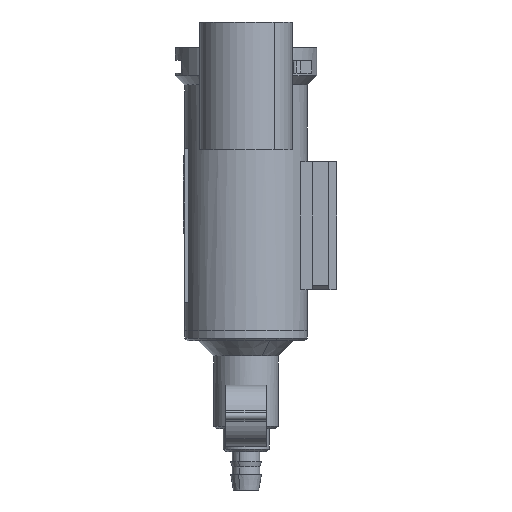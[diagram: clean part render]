
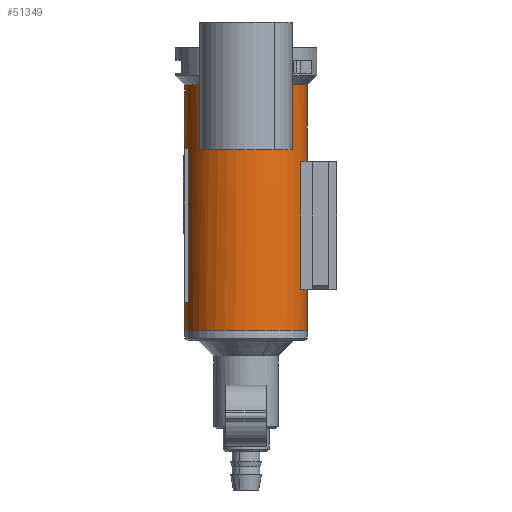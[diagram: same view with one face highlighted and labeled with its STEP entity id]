
A CAD part, front view. The second image highlights one B-rep face of the part: STEP entity #51349.
In plain terms, the highlighted cylindrical face has radius 12 mm (diameter 24 mm), a partial arc.
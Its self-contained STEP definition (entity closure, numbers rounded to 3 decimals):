
#49598=AXIS2_PLACEMENT_3D('Circle Axis2P3D',#49596,#49597,$) ;
#49666=AXIS2_PLACEMENT_3D('Circle Axis2P3D',#49664,#49665,$) ;
#49725=AXIS2_PLACEMENT_3D('Circle Axis2P3D',#49723,#49724,$) ;
#49827=AXIS2_PLACEMENT_3D('Circle Axis2P3D',#49825,#49826,$) ;
#49867=AXIS2_PLACEMENT_3D('Circle Axis2P3D',#49865,#49866,$) ;
#49898=AXIS2_PLACEMENT_3D('Circle Axis2P3D',#49896,#49897,$) ;
#49973=AXIS2_PLACEMENT_3D('Circle Axis2P3D',#49971,#49972,$) ;
#51297=AXIS2_PLACEMENT_3D('Cylinder Axis2P3D',#51294,#51295,#51296) ;
#51320=AXIS2_PLACEMENT_3D('Circle Axis2P3D',#51318,#51319,$) ;
#51325=AXIS2_PLACEMENT_3D('Circle Axis2P3D',#51323,#51324,$) ;
#49593=CARTESIAN_POINT('Vertex',(10.665,-5.5,10.)) ;
#49596=CARTESIAN_POINT('Axis2P3D Location',(0.,0.,10.)) ;
#49600=CARTESIAN_POINT('Vertex',(11.715,-2.6,10.)) ;
#49626=CARTESIAN_POINT('Line Origine',(10.665,-5.5,22.5)) ;
#49630=CARTESIAN_POINT('Vertex',(10.665,-5.5,35.)) ;
#49661=CARTESIAN_POINT('Vertex',(11.715,-2.6,35.)) ;
#49664=CARTESIAN_POINT('Axis2P3D Location',(0.,0.,35.)) ;
#49692=CARTESIAN_POINT('Line Origine',(11.715,-2.6,22.5)) ;
#49720=CARTESIAN_POINT('Vertex',(12.,0.,2.)) ;
#49723=CARTESIAN_POINT('Axis2P3D Location',(0.,0.,2.)) ;
#49727=CARTESIAN_POINT('Vertex',(-12.,0.,2.)) ;
#49755=CARTESIAN_POINT('Line Origine',(5.5,-10.665,43.65)) ;
#49759=CARTESIAN_POINT('Vertex',(5.5,-10.665,50.)) ;
#49761=CARTESIAN_POINT('Vertex',(5.5,-10.665,37.3)) ;
#49822=CARTESIAN_POINT('Vertex',(-5.5,-10.665,37.3)) ;
#49825=CARTESIAN_POINT('Axis2P3D Location',(0.,0.,37.3)) ;
#49862=CARTESIAN_POINT('Vertex',(6.,-10.392,50.)) ;
#49865=CARTESIAN_POINT('Axis2P3D Location',(0.,0.,50.)) ;
#49869=CARTESIAN_POINT('Vertex',(12.,0.,50.)) ;
#49896=CARTESIAN_POINT('Axis2P3D Location',(0.,0.,50.)) ;
#49941=CARTESIAN_POINT('Vertex',(-5.5,-10.665,50.)) ;
#49944=CARTESIAN_POINT('Line Origine',(-5.5,-10.665,43.65)) ;
#49968=CARTESIAN_POINT('Vertex',(-12.,0.,50.)) ;
#49971=CARTESIAN_POINT('Axis2P3D Location',(0.,0.,50.)) ;
#50857=CARTESIAN_POINT('Vertex',(-11.314,-4.,7.5)) ;
#50860=CARTESIAN_POINT('Line Origine',(-11.314,-4.,22.5)) ;
#50864=CARTESIAN_POINT('Vertex',(-11.314,-4.,37.5)) ;
#51294=CARTESIAN_POINT('Axis2P3D Location',(0.,0.,26.15)) ;
#51299=CARTESIAN_POINT('Line Origine',(-12.,0.,26.15)) ;
#51303=CARTESIAN_POINT('Vertex',(-12.,0.,7.5)) ;
#51306=CARTESIAN_POINT('Line Origine',(12.,0.,26.15)) ;
#51311=CARTESIAN_POINT('Line Origine',(-12.,0.,26.15)) ;
#51315=CARTESIAN_POINT('Vertex',(-12.,0.,37.5)) ;
#51318=CARTESIAN_POINT('Axis2P3D Location',(0.,0.,37.5)) ;
#51323=CARTESIAN_POINT('Axis2P3D Location',(0.,0.,7.5)) ;
#49597=DIRECTION('Axis2P3D Direction',(0.,0.,1.)) ;
#49627=DIRECTION('Vector Direction',(0.,0.,1.)) ;
#49665=DIRECTION('Axis2P3D Direction',(0.,0.,1.)) ;
#49693=DIRECTION('Vector Direction',(0.,0.,1.)) ;
#49724=DIRECTION('Axis2P3D Direction',(0.,0.,-1.)) ;
#49756=DIRECTION('Vector Direction',(0.,0.,1.)) ;
#49826=DIRECTION('Axis2P3D Direction',(0.,0.,1.)) ;
#49866=DIRECTION('Axis2P3D Direction',(0.,0.,1.)) ;
#49897=DIRECTION('Axis2P3D Direction',(0.,0.,1.)) ;
#49945=DIRECTION('Vector Direction',(0.,0.,1.)) ;
#49972=DIRECTION('Axis2P3D Direction',(0.,0.,1.)) ;
#50861=DIRECTION('Vector Direction',(0.,0.,1.)) ;
#51295=DIRECTION('Axis2P3D Direction',(0.,0.,1.)) ;
#51296=DIRECTION('Axis2P3D XDirection',(-1.,0.,0.)) ;
#51300=DIRECTION('Vector Direction',(0.,0.,1.)) ;
#51307=DIRECTION('Vector Direction',(0.,0.,1.)) ;
#51312=DIRECTION('Vector Direction',(0.,0.,1.)) ;
#51319=DIRECTION('Axis2P3D Direction',(0.,0.,1.)) ;
#51324=DIRECTION('Axis2P3D Direction',(0.,0.,1.)) ;
#49628=VECTOR('Line Direction',#49627,1.) ;
#49694=VECTOR('Line Direction',#49693,1.) ;
#49757=VECTOR('Line Direction',#49756,1.) ;
#49946=VECTOR('Line Direction',#49945,1.) ;
#50862=VECTOR('Line Direction',#50861,1.) ;
#51301=VECTOR('Line Direction',#51300,1.) ;
#51308=VECTOR('Line Direction',#51307,1.) ;
#51313=VECTOR('Line Direction',#51312,1.) ;
#51329=ORIENTED_EDGE('',*,*,#51305,.F.) ;
#51330=ORIENTED_EDGE('',*,*,#49729,.F.) ;
#51331=ORIENTED_EDGE('',*,*,#51310,.T.) ;
#51332=ORIENTED_EDGE('',*,*,#49871,.T.) ;
#51333=ORIENTED_EDGE('',*,*,#49900,.T.) ;
#51334=ORIENTED_EDGE('',*,*,#49763,.T.) ;
#51335=ORIENTED_EDGE('',*,*,#49829,.F.) ;
#51336=ORIENTED_EDGE('',*,*,#49948,.F.) ;
#51337=ORIENTED_EDGE('',*,*,#49975,.T.) ;
#51338=ORIENTED_EDGE('',*,*,#51317,.F.) ;
#51339=ORIENTED_EDGE('',*,*,#51322,.F.) ;
#51340=ORIENTED_EDGE('',*,*,#50866,.F.) ;
#51341=ORIENTED_EDGE('',*,*,#51327,.T.) ;
#51344=ORIENTED_EDGE('',*,*,#49602,.T.) ;
#51345=ORIENTED_EDGE('',*,*,#49632,.T.) ;
#51346=ORIENTED_EDGE('',*,*,#49668,.F.) ;
#51347=ORIENTED_EDGE('',*,*,#49696,.F.) ;
#51348=FACE_BOUND('',#51343,.T.) ;
#51349=ADVANCED_FACE('\X2\96F64EF651E04F554F53\X0\',(#51342,#51348),#51298,.T.) ;
#49599=CIRCLE('generated circle',#49598,12.) ;
#49667=CIRCLE('generated circle',#49666,12.) ;
#49726=CIRCLE('generated circle',#49725,12.) ;
#49828=CIRCLE('generated circle',#49827,12.) ;
#49868=CIRCLE('generated circle',#49867,12.) ;
#49899=CIRCLE('generated circle',#49898,12.) ;
#49974=CIRCLE('generated circle',#49973,12.) ;
#51321=CIRCLE('generated circle',#51320,12.) ;
#51326=CIRCLE('generated circle',#51325,12.) ;
#51298=CYLINDRICAL_SURFACE('generated cylinder',#51297,12.) ;
#49602=EDGE_CURVE('',#49601,#49594,#49599,.F.) ;
#49632=EDGE_CURVE('',#49594,#49631,#49629,.T.) ;
#49668=EDGE_CURVE('',#49662,#49631,#49667,.F.) ;
#49696=EDGE_CURVE('',#49601,#49662,#49695,.T.) ;
#49729=EDGE_CURVE('',#49721,#49728,#49726,.T.) ;
#49763=EDGE_CURVE('',#49760,#49762,#49758,.F.) ;
#49829=EDGE_CURVE('',#49823,#49762,#49828,.T.) ;
#49871=EDGE_CURVE('',#49870,#49863,#49868,.F.) ;
#49900=EDGE_CURVE('',#49863,#49760,#49899,.F.) ;
#49948=EDGE_CURVE('',#49942,#49823,#49947,.F.) ;
#49975=EDGE_CURVE('',#49942,#49969,#49974,.F.) ;
#50866=EDGE_CURVE('',#50858,#50865,#50863,.T.) ;
#51305=EDGE_CURVE('',#49728,#51304,#51302,.T.) ;
#51310=EDGE_CURVE('',#49721,#49870,#51309,.T.) ;
#51317=EDGE_CURVE('',#51316,#49969,#51314,.T.) ;
#51322=EDGE_CURVE('',#50865,#51316,#51321,.F.) ;
#51327=EDGE_CURVE('',#50858,#51304,#51326,.F.) ;
#51328=EDGE_LOOP('',(#51329,#51330,#51331,#51332,#51333,#51334,#51335,#51336,#51337,#51338,#51339,#51340,#51341)) ;
#51343=EDGE_LOOP('',(#51344,#51345,#51346,#51347)) ;
#51342=FACE_OUTER_BOUND('',#51328,.T.) ;
#49629=LINE('Line',#49626,#49628) ;
#49695=LINE('Line',#49692,#49694) ;
#49758=LINE('Line',#49755,#49757) ;
#49947=LINE('Line',#49944,#49946) ;
#50863=LINE('Line',#50860,#50862) ;
#51302=LINE('Line',#51299,#51301) ;
#51309=LINE('Line',#51306,#51308) ;
#51314=LINE('Line',#51311,#51313) ;
#49594=VERTEX_POINT('',#49593) ;
#49601=VERTEX_POINT('',#49600) ;
#49631=VERTEX_POINT('',#49630) ;
#49662=VERTEX_POINT('',#49661) ;
#49721=VERTEX_POINT('',#49720) ;
#49728=VERTEX_POINT('',#49727) ;
#49760=VERTEX_POINT('',#49759) ;
#49762=VERTEX_POINT('',#49761) ;
#49823=VERTEX_POINT('',#49822) ;
#49863=VERTEX_POINT('',#49862) ;
#49870=VERTEX_POINT('',#49869) ;
#49942=VERTEX_POINT('',#49941) ;
#49969=VERTEX_POINT('',#49968) ;
#50858=VERTEX_POINT('',#50857) ;
#50865=VERTEX_POINT('',#50864) ;
#51304=VERTEX_POINT('',#51303) ;
#51316=VERTEX_POINT('',#51315) ;
